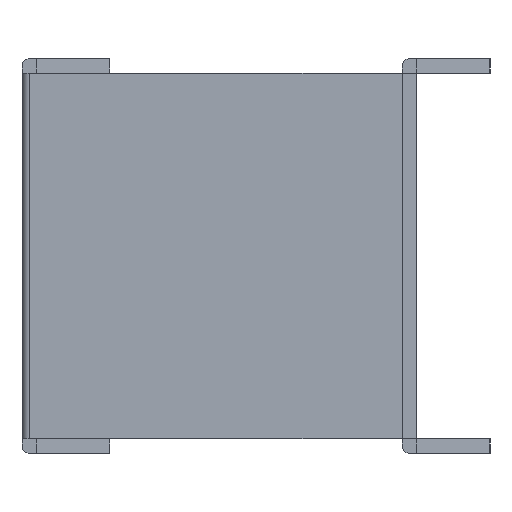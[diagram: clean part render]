
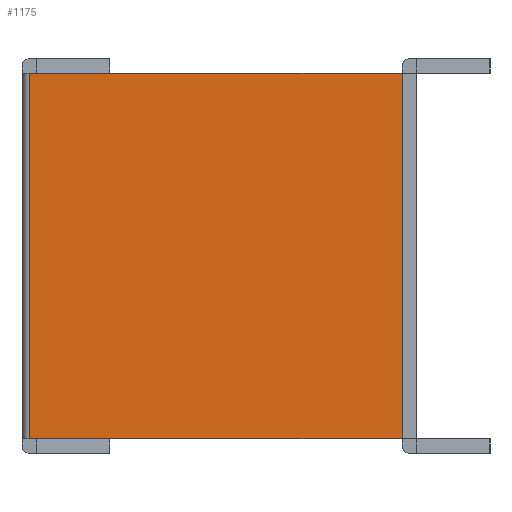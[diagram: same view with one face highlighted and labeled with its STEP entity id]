
A CAD part, left-side view. The second image highlights one B-rep face of the part: STEP entity #1175.
In plain terms, the highlighted planar face has unit normal (-1, 0, 0).
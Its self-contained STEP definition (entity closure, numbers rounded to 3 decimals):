
#75=FACE_OUTER_BOUND('',#147,.T.);
#147=EDGE_LOOP('',(#918,#919,#920,#921));
#203=LINE('',#1638,#353);
#205=LINE('',#1644,#355);
#212=LINE('',#1661,#362);
#269=LINE('',#1774,#419);
#353=VECTOR('',#1317,304.8);
#355=VECTOR('',#1321,304.8);
#362=VECTOR('',#1334,304.8);
#419=VECTOR('',#1439,304.8);
#496=VERTEX_POINT('',#1619);
#505=VERTEX_POINT('',#1636);
#507=VERTEX_POINT('',#1641);
#508=VERTEX_POINT('',#1643);
#613=EDGE_CURVE('',#505,#496,#203,.T.);
#615=EDGE_CURVE('',#507,#508,#205,.T.);
#624=EDGE_CURVE('',#496,#507,#212,.T.);
#681=EDGE_CURVE('',#508,#505,#269,.T.);
#918=ORIENTED_EDGE('',*,*,#613,.F.);
#919=ORIENTED_EDGE('',*,*,#681,.F.);
#920=ORIENTED_EDGE('',*,*,#615,.F.);
#921=ORIENTED_EDGE('',*,*,#624,.F.);
#1115=PLANE('',#1250);
#1175=ADVANCED_FACE('',(#75),#1115,.T.);
#1250=AXIS2_PLACEMENT_3D('',#1775,#1440,#1441);
#1317=DIRECTION('',(0.,-1.,0.));
#1321=DIRECTION('',(0.,1.,0.));
#1334=DIRECTION('',(0.,0.,-1.));
#1439=DIRECTION('',(0.,0.,1.));
#1440=DIRECTION('center_axis',(-1.,0.,0.));
#1441=DIRECTION('ref_axis',(0.,0.,-1.));
#1619=CARTESIAN_POINT('',(-1.,-25.,25.));
#1636=CARTESIAN_POINT('',(-1.,26.,25.));
#1638=CARTESIAN_POINT('',(-1.,26.,25.));
#1641=CARTESIAN_POINT('',(-1.,-25.,-25.));
#1643=CARTESIAN_POINT('',(-1.,26.,-25.));
#1644=CARTESIAN_POINT('',(-1.,-25.,-25.));
#1661=CARTESIAN_POINT('',(-1.,-25.,25.));
#1774=CARTESIAN_POINT('',(-1.,26.,25.));
#1775=CARTESIAN_POINT('Origin',(-1.,26.,25.));
